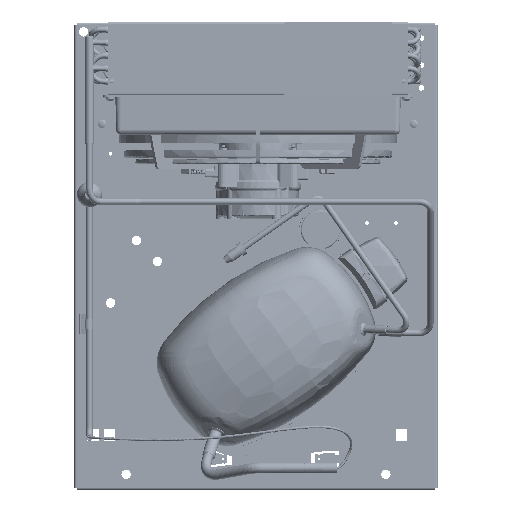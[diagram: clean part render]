
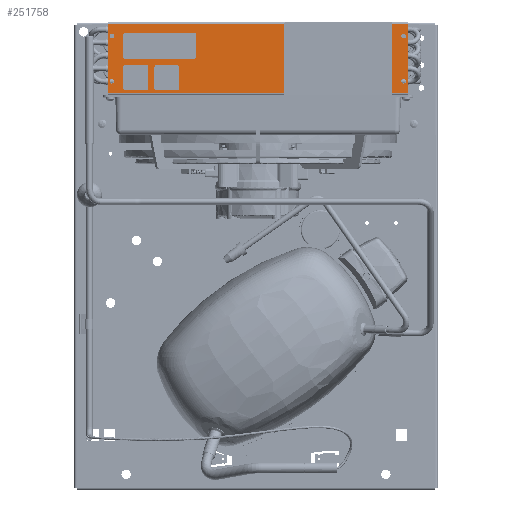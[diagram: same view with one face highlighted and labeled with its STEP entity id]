
A CAD part, top view. The second image highlights one B-rep face of the part: STEP entity #251758.
In plain terms, the highlighted planar face has unit normal (0, 0, 1).
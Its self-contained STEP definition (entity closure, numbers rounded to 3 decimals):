
#77608=CIRCLE('',#265204,2.25);
#77609=CIRCLE('',#265205,2.25);
#77610=CIRCLE('',#265206,2.25);
#77611=CIRCLE('',#265207,2.25);
#87066=ORIENTED_EDGE('',*,*,#145250,.F.);
#87067=ORIENTED_EDGE('',*,*,#145251,.F.);
#87068=ORIENTED_EDGE('',*,*,#145252,.F.);
#87069=ORIENTED_EDGE('',*,*,#145253,.F.);
#87070=ORIENTED_EDGE('',*,*,#145234,.T.);
#87071=ORIENTED_EDGE('',*,*,#145254,.F.);
#87072=ORIENTED_EDGE('',*,*,#145220,.F.);
#87073=ORIENTED_EDGE('',*,*,#145249,.T.);
#145220=EDGE_CURVE('',#174908,#174909,#194057,.T.);
#145234=EDGE_CURVE('',#174921,#174920,#194067,.T.);
#145249=EDGE_CURVE('',#174908,#174921,#194077,.T.);
#145250=EDGE_CURVE('',#174928,#174928,#77608,.T.);
#145251=EDGE_CURVE('',#174929,#174929,#77609,.T.);
#145252=EDGE_CURVE('',#174930,#174930,#77610,.T.);
#145253=EDGE_CURVE('',#174931,#174931,#77611,.T.);
#145254=EDGE_CURVE('',#174909,#174920,#194078,.T.);
#174908=VERTEX_POINT('',#330523);
#174909=VERTEX_POINT('',#330525);
#174920=VERTEX_POINT('',#330551);
#174921=VERTEX_POINT('',#330553);
#174928=VERTEX_POINT('',#330585);
#174929=VERTEX_POINT('',#330587);
#174930=VERTEX_POINT('',#330589);
#174931=VERTEX_POINT('',#330591);
#194057=LINE('',#330524,#204926);
#194067=LINE('',#330552,#204936);
#194077=LINE('',#330582,#204946);
#194078=LINE('',#330592,#204947);
#204926=VECTOR('',#285407,1000.);
#204936=VECTOR('',#285429,1000.);
#204946=VECTOR('',#285465,1000.);
#204947=VECTOR('',#285476,1000.);
#217239=EDGE_LOOP('',(#87066));
#217240=EDGE_LOOP('',(#87067));
#217241=EDGE_LOOP('',(#87068));
#217242=EDGE_LOOP('',(#87069));
#217243=EDGE_LOOP('',(#87070,#87071,#87072,#87073));
#232275=FACE_BOUND('',#217239,.T.);
#232276=FACE_BOUND('',#217240,.T.);
#232277=FACE_BOUND('',#217241,.T.);
#232278=FACE_BOUND('',#217242,.T.);
#232279=FACE_BOUND('',#217243,.T.);
#245496=PLANE('',#265203);
#251758=ADVANCED_FACE('',(#232275,#232276,#232277,#232278,#232279),#245496,
 .F.);
#265203=AXIS2_PLACEMENT_3D('',#330583,#285466,#285467);
#265204=AXIS2_PLACEMENT_3D('',#330584,#285468,#285469);
#265205=AXIS2_PLACEMENT_3D('',#330586,#285470,#285471);
#265206=AXIS2_PLACEMENT_3D('',#330588,#285472,#285473);
#265207=AXIS2_PLACEMENT_3D('',#330590,#285474,#285475);
#285407=DIRECTION('',(0.,1.,0.));
#285429=DIRECTION('',(0.,1.,0.));
#285465=DIRECTION('',(1.,0.,0.));
#285466=DIRECTION('',(0.,0.,-1.));
#285467=DIRECTION('',(-1.,0.,0.));
#285468=DIRECTION('',(0.,0.,1.));
#285469=DIRECTION('',(1.,0.,0.));
#285470=DIRECTION('',(0.,0.,1.));
#285471=DIRECTION('',(1.,0.,0.));
#285472=DIRECTION('',(0.,0.,1.));
#285473=DIRECTION('',(1.,0.,0.));
#285474=DIRECTION('',(0.,0.,1.));
#285475=DIRECTION('',(1.,0.,0.));
#285476=DIRECTION('',(1.,0.,0.));
#330523=CARTESIAN_POINT('',(-144.5,-33.45,0.));
#330524=CARTESIAN_POINT('',(-144.5,-35.25,0.));
#330525=CARTESIAN_POINT('',(-144.5,33.45,0.));
#330551=CARTESIAN_POINT('',(144.5,33.45,0.));
#330552=CARTESIAN_POINT('',(144.5,-35.25,0.));
#330553=CARTESIAN_POINT('',(144.5,-33.45,0.));
#330582=CARTESIAN_POINT('',(-144.5,-33.45,0.));
#330583=CARTESIAN_POINT('',(-144.5,-35.25,0.));
#330584=CARTESIAN_POINT('',(-140.5,21.75,0.));
#330585=CARTESIAN_POINT('',(-138.25,21.75,0.));
#330586=CARTESIAN_POINT('',(-140.5,-21.75,0.));
#330587=CARTESIAN_POINT('',(-138.25,-21.75,0.));
#330588=CARTESIAN_POINT('',(140.5,-21.75,0.));
#330589=CARTESIAN_POINT('',(142.75,-21.75,0.));
#330590=CARTESIAN_POINT('',(140.5,21.75,0.));
#330591=CARTESIAN_POINT('',(142.75,21.75,0.));
#330592=CARTESIAN_POINT('',(-144.5,33.45,0.));
